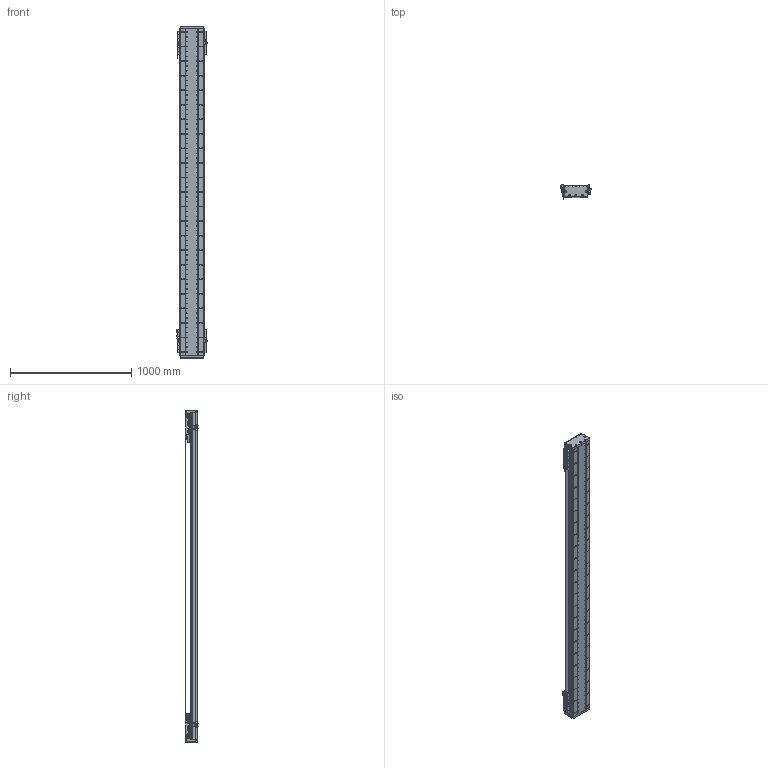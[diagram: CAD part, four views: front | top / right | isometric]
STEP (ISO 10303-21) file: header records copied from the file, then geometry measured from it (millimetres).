
FILE_DESCRIPTION (( 'STEP AP203' ), '1' );
FILE_NAME ('DA-C195-2-C2-T2240-C010-0.2 眻盄萇儂.STEP', '2025-08-14T02:10:06', ( '' ), ( '' ), 'SwSTEP 2.0', 'SolidWorks 2019', '' );
FILE_SCHEMA (( 'CONFIG_CONTROL_DESIGN' ));
Length unit declared in the file: millimetre
Products named in the file (19): DA95-HXJ-00 遣喳砎蝶-1; IU-CU195-L-00 菁釱(L2700); DKW168-HXJ-ZJ-00 笢潔滅袉砎蝶-1; DA195詩湍裔啣-1; PM-T45ㄗ侂狟ㄘ-1; DKW-GYP-ZJ-00 笢潔嫖萇覜茼え-1; CU195-C2賑輸-俋楷-1; 葩璃 DA95-GT-T-00-1; DA195詩湍郪璃-1; MS200 棠掑喜S315-T1740-1; DA-C195-GD-DB-H-00 傷啣-1; DA195詩湍菜輸-1; PM-Y65嫖萇羲壽郪璃-1; DA165-GYP-00 光电感应片(默认)-1; LMT黍杅芛-1; DA-C195-2-C2-T2240-C010-0.2 眻盄萇儂; DA195詩湍嶺輸-1; IU-CU195-L 菁釱絳寢-1; DKW-KGZ-ZJ-00 中间光电开关支架-1
Assembly tree (37 placements, depth 3):
  DA-C195-2-C2-T2240-C010-0.2 眻盄萇儂
    DA195詩湍郪璃-1
      DA195詩湍菜輸-1  x2
      DA195詩湍裔啣-1
      DA195詩湍嶺輸-1  x2
      DA95-HXJ-00 遣喳砎蝶-1  x8
      DA-C195-GD-DB-H-00 傷啣-1  x2
    IU-CU195-L 菁釱絳寢-1
      IU-CU195-L-00 菁釱(L2700)
      葩璃 DA95-GT-T-00-1  x4
    LMT黍杅芛-1  x2
    MS200 棠掑喜S315-T1740-1
    PM-T45ㄗ侂狟ㄘ-1  x4
    DA165-GYP-00 光电感应片(默认)-1  x2
    PM-Y65嫖萇羲壽郪璃-1
    DKW168-HXJ-ZJ-00 笢潔滅袉砎蝶-1
    DKW-GYP-ZJ-00 笢潔嫖萇覜茼え-1
    DKW-KGZ-ZJ-00 中间光电开关支架-1
    CU195-C2賑輸-俋楷-1  x2
Bounding box: 258.2 x 115.45 x 2740 mm (x, y, z)
Volume: 16861473.7 mm3; surface area: 4906608 mm2
Topology: 114 solids, 242 shells, 7067 faces, 18815 edges, 11713 vertices
Faces by surface type: cylinder 3356, plane 2627, cone 916, torus 88, sphere 72, bspline 8
Entity records: 154105 total; most frequent: CARTESIAN_POINT 41711, ORIENTED_EDGE 23462, DIRECTION 22394, EDGE_CURVE 11731, AXIS2_PLACEMENT_3D 8253, VERTEX_POINT 7600, LINE 5888, VECTOR 5888
